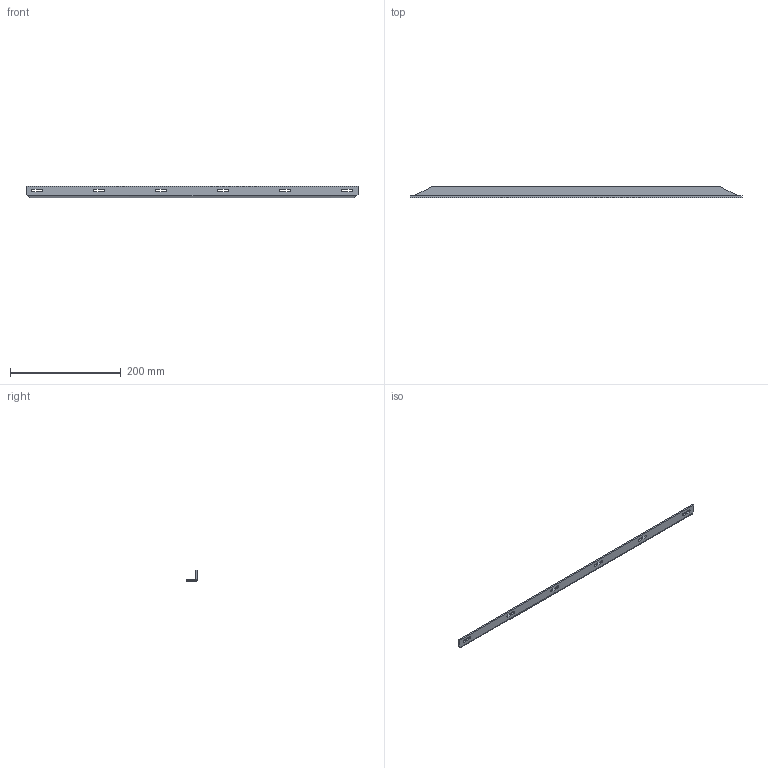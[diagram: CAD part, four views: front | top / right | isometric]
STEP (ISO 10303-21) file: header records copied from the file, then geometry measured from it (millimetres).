
FILE_DESCRIPTION (( 'STEP AP214' ), '1' );
FILE_NAME ('E446-600.STEP', '2024-12-11T22:58:31', ( '' ), ( '' ), 'SwSTEP 2.0', 'SolidWorks 2024', '' );
FILE_SCHEMA (( 'AUTOMOTIVE_DESIGN' ));
Length unit declared in the file: millimetre
Products named in the file (1): E446-600
Bounding box: 600 x 20 x 20 mm (x, y, z)
Volume: 60903 mm3; surface area: 45184.3 mm2
Topology: 1 solids, 1 shells, 92 faces, 250 edges, 164 vertices
Faces by surface type: plane 66, cylinder 20, bspline 6
Entity records: 3039 total; most frequent: CARTESIAN_POINT 689, ORIENTED_EDGE 500, DIRECTION 444, EDGE_CURVE 250, LINE 198, VECTOR 198, VERTEX_POINT 164, AXIS2_PLACEMENT_3D 123
